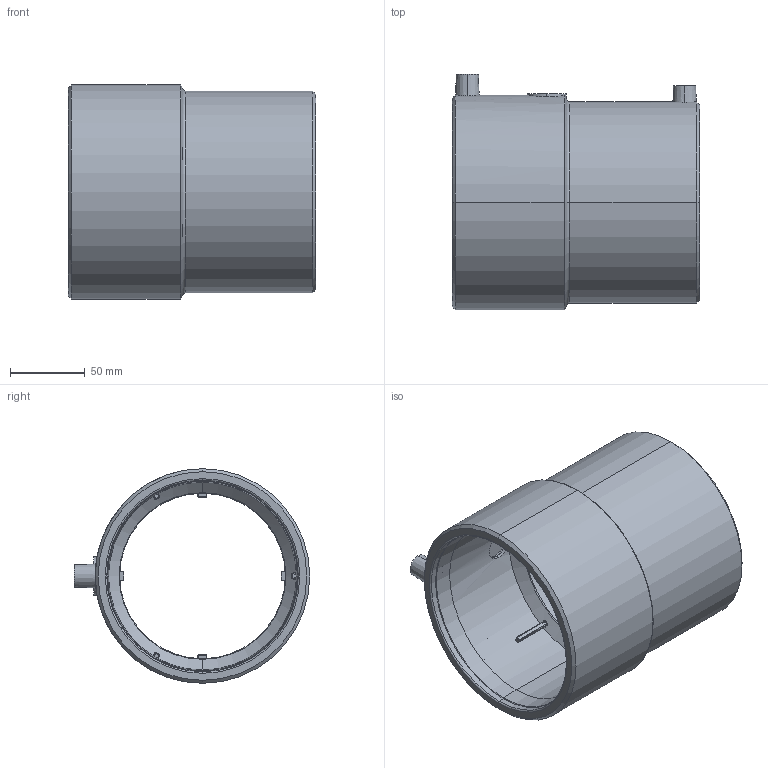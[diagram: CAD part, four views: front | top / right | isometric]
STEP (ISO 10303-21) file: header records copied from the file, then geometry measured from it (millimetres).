
FILE_DESCRIPTION (( 'STEP AP203' ), '1' );
FILE_NAME ('KPT_125-110B.step', '2011-08-08T11:52:21', ( '' ), ( '' ), 'SwSTEP 2.0', 'SolidWorks 2011', '' );
FILE_SCHEMA (( 'CONFIG_CONTROL_DESIGN' ));
Length unit declared in the file: millimetre
Products named in the file (1): KPT_125-110B
Bounding box: 165 x 157.2 x 143.2 mm (x, y, z)
Volume: 670115.3 mm3; surface area: 236503.7 mm2
Topology: 1 solids, 4 shells, 365 faces, 938 edges, 569 vertices
Faces by surface type: cylinder 170, plane 61, cone 60, bspline 35, sphere 22, torus 17
Entity records: 18668 total; most frequent: CARTESIAN_POINT 10612, ORIENTED_EDGE 1828, DIRECTION 1517, EDGE_CURVE 914, AXIS2_PLACEMENT_3D 603, VERTEX_POINT 565, EDGE_LOOP 389, FACE_OUTER_BOUND 365
